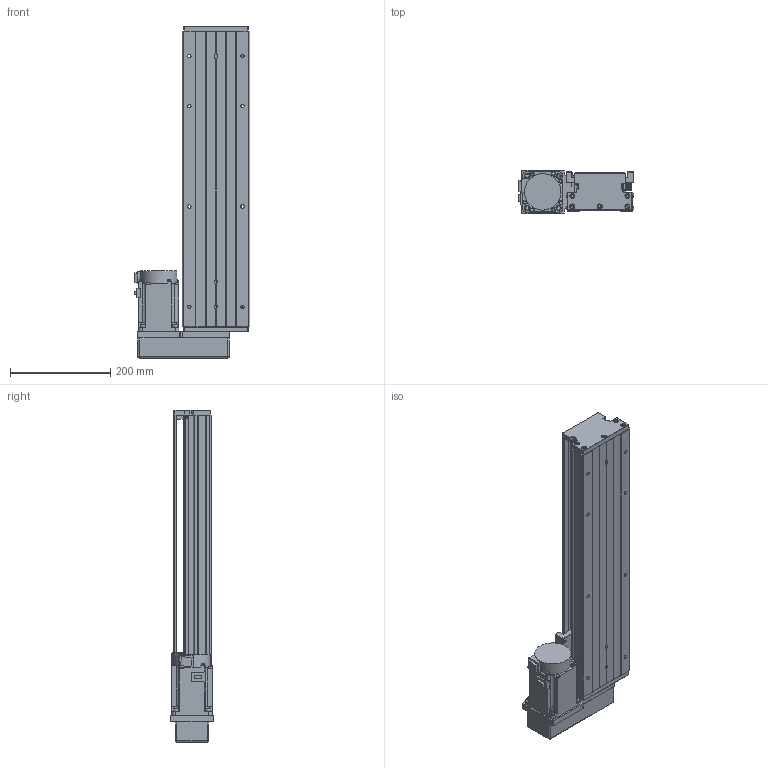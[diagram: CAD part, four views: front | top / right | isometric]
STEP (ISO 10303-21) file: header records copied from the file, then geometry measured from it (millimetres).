
FILE_DESCRIPTION (( 'STEP AP203' ), '1' );
FILE_NAME ('KTH130-450-BL-M75-C4.step', '2023-06-30T04:25:32', ( '微软用户' ), ( '微软中国' ), 'SwSTEP 2.0', 'SolidWorks 2020', '' );
FILE_SCHEMA (( 'CONFIG_CONTROL_DESIGN' ));
Length unit declared in the file: millimetre
Products named in the file (18): EE_SX911P_R; CTHA86-015-3_CTHA86-015-4; KTH130-004; CTHA60-016; CTHA86-035; KTH130-005; GBT 70.1-M3℅5; KTH130-450-BL-M75-C4; GB1155-6X6; GBT77-2000 M3×3; GBT70.1 M5℅16; す晦芛蹟隊 M3℅5; GBT 70.2-M3¡Á5_M3¡Á6; GBT 70.3-M3℅8; GTH14-001_450; CTHA60-017; hg-kn73j_-s100; KTH130-002_KTH130-002
Assembly tree (49 placements, depth 2):
  KTH130-450-BL-M75-C4
    GTH14-001_450
    KTH130-002_KTH130-002
    KTH130-004
    KTH130-005
    GB1155-6X6  x2
    GBT70.1 M5℅16  x10
    GBT 70.2-M3¡Á5_M3¡Á6  x4
    CTHA60-017  x3
    EE_SX911P_R  x3
    CTHA60-016  x2
    GBT 70.1-M3℅5  x6
    GBT77-2000 M3×3  x6
    す晦芛蹟隊 M3℅5  x2
    GBT 70.3-M3℅8  x4
    hg-kn73j_-s100
    CTHA86-015-3_CTHA86-015-4
    CTHA86-035
Bounding box: 230.3 x 87 x 662 mm (x, y, z)
Volume: 4697467.8 mm3; surface area: 679309.6 mm2
Topology: 52 solids, 52 shells, 2182 faces, 5292 edges, 3311 vertices
Faces by surface type: plane 1206, cylinder 622, cone 238, torus 100, sphere 16
Entity records: 39637 total; most frequent: CARTESIAN_POINT 6672, DIRECTION 6517, ORIENTED_EDGE 6088, EDGE_CURVE 3044, AXIS2_PLACEMENT_3D 2274, LINE 1969, VECTOR 1969, VERTEX_POINT 1945
